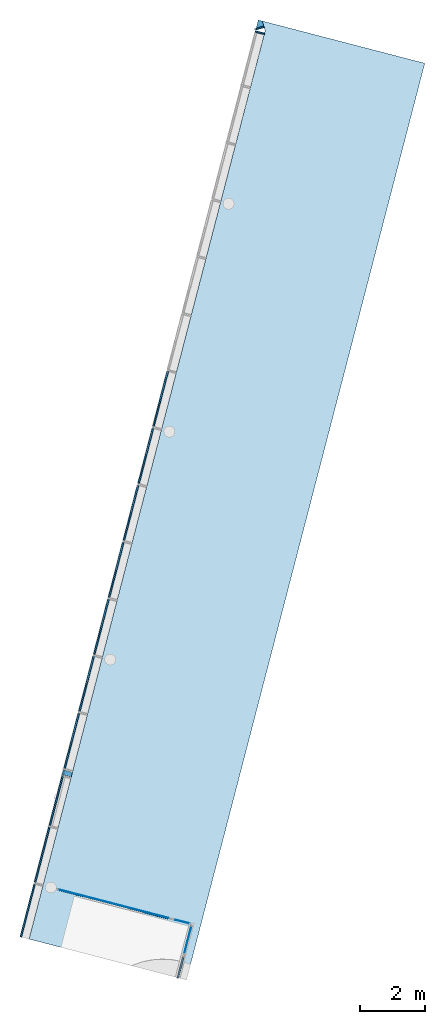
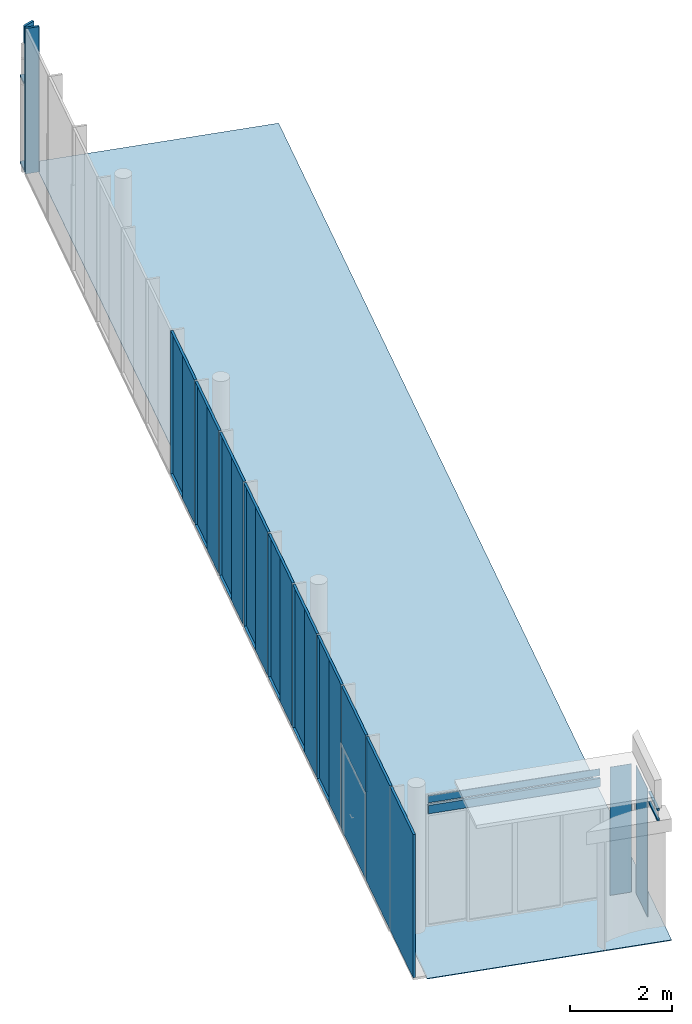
# One storey, part 5 of 9: 16 plates, 7 members, 1 slab, 12 elements without a shape of their own.
"""IFC2X3 building model written with IfcOpenShell, lengths in millimetres."""

from ifc_helpers import new_model, entity, si_unit, converted_unit, derived_unit, direction, frame, frame_2d, origin, origin_with_axes, place, context, subcontext, project, spatial, rectangle, extrude, faceted_brep, source, transform, mapped, material, layer, layer_set, type_object, element, aggregate, save


model = new_model("IFC2X3")

# Units and contexts
model_context = context("Model", 3, precision=0.01, world=origin(), true_north=direction((6.12323399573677e-17, 1.0)))
plan_context = context("Plan", 3, precision=1e-05, world=origin_with_axes())
body_context = subcontext(model_context, "Body", "Model", "MODEL_VIEW")
ifc_project = project(units=[converted_unit("PLANEANGLEUNIT", "DEGREE", entity("IfcPositiveLengthMeasure", 0.0174532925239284), si_unit("PLANEANGLEUNIT", "RADIAN"), dimensions=[0, 0, 0, 0, 0, 0, 0]), si_unit("AREAUNIT", "SQUARE_METRE"), si_unit("LENGTHUNIT", "METRE", prefix="MILLI"), si_unit("MASSUNIT", "GRAM", prefix="KILO"), si_unit("POWERUNIT", "WATT"), si_unit("PRESSUREUNIT", "PASCAL", prefix="KILO"), si_unit("FORCEUNIT", "NEWTON", prefix="KILO"), si_unit("ELECTRICVOLTAGEUNIT", "VOLT"), si_unit("ELECTRICCURRENTUNIT", "AMPERE"), si_unit("THERMODYNAMICTEMPERATUREUNIT", "DEGREE_CELSIUS"), si_unit("TIMEUNIT", "SECOND"), si_unit("VOLUMEUNIT", "CUBIC_METRE"), derived_unit("LINEARVELOCITYUNIT", [(si_unit("LENGTHUNIT", "METRE"), 1), (si_unit("TIMEUNIT", "SECOND"), -1)]), derived_unit("VOLUMETRICFLOWRATEUNIT", [(si_unit("VOLUMEUNIT", "CUBIC_METRE"), 1), (si_unit("TIMEUNIT", "SECOND"), -1)]), derived_unit("THERMALTRANSMITTANCEUNIT", [(si_unit("POWERUNIT", "WATT"), 1), (si_unit("THERMODYNAMICTEMPERATUREUNIT", "KELVIN"), -1), (si_unit("AREAUNIT", "SQUARE_METRE"), -1)]), derived_unit("SOUNDPRESSUREUNIT", [(si_unit("PRESSUREUNIT", "PASCAL"), 1)])], contexts=[model_context, plan_context])

# Site, building, storey
site_placement = place(None, frame((0.0, -2.21771188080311e-09, 0.0), z_axis=(0.0, 0.0, 1.0), x_axis=(0.266093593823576, -0.963947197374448, 0.0)))
site = spatial("IfcSite", under=ifc_project, at=site_placement, Name="ENZV", CompositionType="ELEMENT")
building_placement = place(site_placement, origin_with_axes())
building = spatial("IfcBuilding", under=site, at=building_placement, Name="ZV001", CompositionType="ELEMENT")
storey_placement = place(building_placement, frame((0.0, 0.0, 5100.0), z_axis=(0.0, 0.0, 1.0), x_axis=(1.0, 0.0, 0.0)))
storey = spatial("IfcBuildingStorey", under=building, at=storey_placement, Name="H01", CompositionType="ELEMENT", Elevation=5100.0)

# Curtain wall, members
curtain_wall_type_1 = type_object("IfcCurtainWallType", Name="Curtain Wall:Glassvegg 24 dB", PredefinedType="NOTDEFINED")
curtain_wall_1_placement = place(storey_placement, frame((0.0, 0.0, -5100.0), z_axis=(0.0, 0.0, 1.0), x_axis=(1.0, 0.0, 0.0)))
curtain_wall_1 = element("IfcCurtainWall", 1, at=curtain_wall_1_placement, inside=storey, type_object=curtain_wall_type_1, Name="Curtain Wall:Glassvegg 24 dB", ObjectType="Curtain Wall:Glassvegg 24 dB")
ifc_material_1 = material(Name="Aluminium")
member_type_1 = type_object("IfcMemberType", Name="Rectangular Mullion:ENZV_50x50mm uten offset", PredefinedType="MULLION", material=ifc_material_1)
member_1_placement = place(curtain_wall_1_placement, frame((-156025.991809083, 370557.432588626, 7998.0), z_axis=(-0.866025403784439, 0.5, 0.0), x_axis=(0.0, 0.0, -1.0)))
member_1 = element("IfcMember", 2, at=member_1_placement, type_object=member_type_1, Name="Rectangular Mullion:ENZV_50x50mm uten offset", ObjectType="Rectangular Mullion:ENZV_50x50mm uten offset", context=body_context, shape_type="Brep", body=[
    faceted_brep([(0.0, 25.0, -630.169636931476), (0.0, -25.0, -630.171965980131), (0.0, -25.0, 0.0), (0.0, 25.0, 0.0), (-50.0, 25.0, -630.169636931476), (-50.0, 25.0, 0.0), (-50.0, -25.0, -630.171965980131), (-50.0, -25.0, 0.0)], [[[0, 1, 2, 3]], [[4, 0, 3, 5]], [[6, 4, 5, 7]], [[1, 6, 7, 2]], [[3, 2, 7, 5]], [[4, 6, 1, 0]]], orient=[[False], [False], [False], [False], [False], [False]]),
])
member_type_2 = type_object("IfcMemberType", Name="Rectangular Mullion:ENZV_50x50mm uten offset", PredefinedType="MULLION", material=ifc_material_1)
member_2_placement = place(curtain_wall_1_placement, frame((-151635.404360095, 368022.525804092, 8290.0), z_axis=(0.866025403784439, -0.5, 0.0), x_axis=(0.0, 0.0, 1.0)))
member_2 = element("IfcMember", 3, at=member_2_placement, type_object=member_type_2, Name="Rectangular Mullion:ENZV_50x50mm uten offset", ObjectType="Rectangular Mullion:ENZV_50x50mm uten offset", context=body_context, shape_type="Brep", body=[
    faceted_brep([(0.0, -25.0, -4439.64169464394), (0.0, 25.0, -4439.64402369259), (0.0, 25.0, -5069.81366062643), (0.0, -25.0, -5069.81366062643), (-50.0, 25.0, -4439.64402369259), (-50.0, 25.0, -5069.81366062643), (-50.0, -25.0, -4439.64169464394), (-50.0, -25.0, -5069.81366062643)], [[[0, 1, 2, 3]], [[1, 4, 5, 2]], [[4, 6, 7, 5]], [[6, 0, 3, 7]], [[3, 2, 5, 7]], [[6, 4, 1, 0]]], orient=[[False], [False], [False], [False], [False], [False]]),
])
aggregate(curtain_wall_1, [member_1, member_2])

curtain_wall_type_2 = type_object("IfcCurtainWallType", Name="Curtain Wall:Curtain Wall glass 125mm ut", PredefinedType="NOTDEFINED")
curtain_wall_2_placement = place(storey_placement, frame((0.0, 0.0, -5100.0), z_axis=(0.0, 0.0, 1.0), x_axis=(1.0, 0.0, 0.0)))
curtain_wall_2 = element("IfcCurtainWall", 4, at=curtain_wall_2_placement, inside=storey, type_object=curtain_wall_type_2, Name="Curtain Wall:Curtain Wall glass 125mm ut", ObjectType="Curtain Wall:Curtain Wall glass 125mm ut")
member_type_3 = type_object("IfcMemberType", Name="Rectangular Mullion:ENZV_300x50mm_offset 70", PredefinedType="MULLION", material=ifc_material_1)
member_3_placement = place(curtain_wall_2_placement, frame((-182783.615731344, 380431.274492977, 8195.33333333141), z_axis=(0.0, 0.0, -1.0), x_axis=(1.0, 0.0, 0.0)))
member_3 = element("IfcMember", 5, at=member_3_placement, type_object=member_type_3, Name="Rectangular Mullion:ENZV_300x50mm_offset 70", ObjectType="Rectangular Mullion:ENZV_300x50mm_offset 70", context=body_context, shape_type="Brep", body=[
    faceted_brep([(0.0, 184.361136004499, 0.333333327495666), (1.70530256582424e-13, 184.361136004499, -404.666666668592), (0.0, -84.5, -404.666666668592), (0.0, -84.5, 0.333333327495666), (-50.0, -84.5, -404.666666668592), (-50.0000000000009, 155.490517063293, -404.666666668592), (-50.0, 155.490517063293, 0.333333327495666), (-50.0, -84.5, 0.333333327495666)], [[[0, 1, 2, 3]], [[4, 5, 6, 7]], [[2, 4, 7, 3]], [[6, 0, 3, 7]], [[1, 0, 6, 5]], [[5, 4, 2, 1]]], orient=[[False], [False], [False], [False], [False], [False]]),
])
member_type_4 = type_object("IfcMemberType", Name="Rectangular Mullion:ENZV_300x50mm_offset 70", PredefinedType="MULLION", material=ifc_material_1)
member_4_placement = place(curtain_wall_2_placement, frame((-183054.075216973, 380431.274492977, 5120.0), z_axis=(-1.0, 0.0, 0.0), x_axis=(0.0, 0.0, -1.0)))
member_4 = element("IfcMember", 6, at=member_4_placement, type_object=member_type_4, Name="Rectangular Mullion:ENZV_300x50mm_offset 70", ObjectType="Rectangular Mullion:ENZV_300x50mm_offset 70", context=body_context, shape_type="Brep", body=[
    faceted_brep([(0.0, -84.5, -63.0948397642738), (0.0, 24.7717130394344, 1.16529008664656e-11), (0.0, 28.1944810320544, 1.16529008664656e-11), (0.0, 155.490517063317, -220.459485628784), (0.0, -84.5, -220.459485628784), (-50.0, 155.490517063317, -220.459485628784), (-50.0, 28.1944810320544, 1.16529008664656e-11), (-50.0, 24.7717130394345, 1.16529008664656e-11), (-50.0, -84.5, -63.0948397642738), (-50.0, -84.5, -220.459485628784)], [[[0, 1, 2, 3, 4]], [[5, 6, 7, 8, 9]], [[8, 0, 4, 9]], [[3, 5, 9, 4]], [[1, 7, 6, 2]], [[8, 7, 1, 0]], [[6, 5, 3, 2]]], orient=[[False], [False], [False], [False], [False], [False], [False]]),
])
member_type_5 = type_object("IfcMemberType", Name="Rectangular Mullion:ENZV_300x50mm_offset 70", PredefinedType="MULLION", material=ifc_material_1)
member_5_placement = place(curtain_wall_2_placement, frame((-182833.615731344, 380431.274492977, 7215.0), z_axis=(1.0, 0.0, 0.0), x_axis=(0.0, 0.0, 1.0)))
member_5 = element("IfcMember", 7, at=member_5_placement, type_object=member_type_5, Name="Rectangular Mullion:ENZV_300x50mm_offset 70", ObjectType="Rectangular Mullion:ENZV_300x50mm_offset 70", context=body_context, shape_type="Brep", body=[
    faceted_brep([(25.0, 155.490517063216, -1.49952938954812e-10), (25.0000000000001, 27.3386509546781, -221.941667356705), (25.0, -84.5, -157.364645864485), (25.0, -84.5, -1.49952938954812e-10), (-25.0, -84.5, -157.364645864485), (-25.0000000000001, 27.3386509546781, -221.941667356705), (-25.0, 155.490517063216, -1.49952938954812e-10), (-25.0, -84.5, -1.49952938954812e-10)], [[[0, 1, 2, 3]], [[4, 5, 6, 7]], [[2, 4, 7, 3]], [[6, 0, 3, 7]], [[5, 4, 2, 1]], [[1, 0, 6, 5]]], orient=[[False], [False], [False], [False], [False], [False]]),
])
aggregate(curtain_wall_2, [member_3, member_5, member_4])

# Curtain wall, member
curtain_wall_3_placement = place(storey_placement, frame((0.0, 0.0, -5100.0), z_axis=(0.0, 0.0, 1.0), x_axis=(1.0, 0.0, 0.0)))
curtain_wall_3 = element("IfcCurtainWall", 8, at=curtain_wall_3_placement, inside=storey, type_object=curtain_wall_type_2, Name="Curtain Wall:Curtain Wall glass 125mm ut", ObjectType="Curtain Wall:Curtain Wall glass 125mm ut")
member_type_6 = type_object("IfcMemberType", Name="Rectangular Mullion:ENZV_304x50mm", PredefinedType="MULLION", material=ifc_material_1)
member_6_placement = place(curtain_wall_3_placement, frame((-182697.01617689, 380349.557848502, 5120.0), z_axis=(0.0, 0.0, -1.0), x_axis=(-0.866025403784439, 0.5, 0.0)))
member_6 = element("IfcMember", 9, at=member_6_placement, type_object=member_type_6, Name="Rectangular Mullion:ENZV_304x50mm", ObjectType="Rectangular Mullion:ENZV_304x50mm", context=body_context, shape_type="Brep", body=[
    faceted_brep([(0.0, 152.0, -3480.0), (-1.36424205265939e-12, -132.193617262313, -3480.0), (0.0, -132.193617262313, -1.81898940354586e-12), (0.0, 152.0, -1.81898940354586e-12), (-50.0, 152.0, -3480.0), (-50.0, 152.0, -1.81898940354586e-12), (-50.0, -132.195946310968, -1.81898940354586e-12), (-50.0000000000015, -132.195946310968, -3480.0)], [[[0, 1, 2, 3]], [[4, 0, 3, 5]], [[6, 7, 4, 5]], [[2, 6, 5, 3]], [[7, 6, 2, 1]], [[1, 0, 4, 7]]], orient=[[False], [False], [False], [False], [False], [False]]),
])
aggregate(curtain_wall_3, [member_6])

curtain_wall_4_placement = place(storey_placement, frame((0.0, 0.0, -5100.0), z_axis=(0.0, 0.0, 1.0), x_axis=(1.0, 0.0, 0.0)))
curtain_wall_4 = element("IfcCurtainWall", 10, at=curtain_wall_4_placement, inside=storey, type_object=curtain_wall_type_2, Name="Curtain Wall:Curtain Wall glass 125mm ut", ObjectType="Curtain Wall:Curtain Wall glass 125mm ut")
member_type_7 = type_object("IfcMemberType", Name="Rectangular Mullion:ENZV_304x50mm", PredefinedType="MULLION", material=ifc_material_1)
member_7_placement = place(curtain_wall_4_placement, frame((-182696.405194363, 380350.616118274, 5120.0), z_axis=(0.0, 0.0, -1.0), x_axis=(-0.866025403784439, 0.5, 0.0)))
member_7 = element("IfcMember", 11, at=member_7_placement, type_object=member_type_7, Name="Rectangular Mullion:ENZV_304x50mm", ObjectType="Rectangular Mullion:ENZV_304x50mm", context=body_context, shape_type="Brep", body=[
    faceted_brep([(0.0, 152.0, -3480.0), (1.19371179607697e-12, -133.415597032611, -3480.0), (0.0, -133.415597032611, -1.81898940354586e-12), (0.0, 152.0, -1.81898940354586e-12), (-50.0, 152.0, -3480.0), (-50.0, 152.0, -1.81898940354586e-12), (-50.0, -133.417926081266, -1.81898940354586e-12), (-49.9999999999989, -133.417926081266, -3480.0)], [[[0, 1, 2, 3]], [[4, 0, 3, 5]], [[6, 7, 4, 5]], [[2, 6, 5, 3]], [[7, 6, 2, 1]], [[1, 0, 4, 7]]], orient=[[False], [False], [False], [False], [False], [False]]),
])
aggregate(curtain_wall_4, [member_7])

# Curtain wall, plate
curtain_wall_5_placement = place(storey_placement, frame((0.0, 0.0, -5100.0), z_axis=(0.0, 0.0, 1.0), x_axis=(1.0, 0.0, 0.0)))
curtain_wall_5 = element("IfcCurtainWall", 12, at=curtain_wall_5_placement, inside=storey, type_object=curtain_wall_type_1, Name="Curtain Wall:Glassvegg 24 dB", ObjectType="Curtain Wall:Glassvegg 24 dB")
ifc_material_2 = material(Name="Glass")
plate_type_1 = type_object("IfcPlateType", Name="System Panel:Glassfelt 10mm", PredefinedType="CURTAIN_PANEL", material=ifc_material_2)
shared_shape_1 = source(origin(), body_context, "Body", "SweptSolid", [
    extrude(rectangle(XDim=10.0, YDim=839.99999999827, at=frame_2d((0.0, -3.72324393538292e-12), x_axis=(1.0, 0.0))), frame((0.0, 0.0, 0.0), z_axis=(0.0, 0.0, 1.0), x_axis=(0.0, 1.0, 0.0)), (0.0, 0.0, 1.0), 3070.0),
])
plate_1_placement = place(curtain_wall_5_placement, frame((-156519.626292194, 370842.432583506, 5170.0), z_axis=(0.0, 0.0, 1.0), x_axis=(0.866025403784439, -0.5, 0.0)))
plate_1 = element("IfcPlate", 13, at=plate_1_placement, type_object=plate_type_1, material=ifc_material_2, Name="System Panel:Glassfelt 10mm", ObjectType="System Panel:Glassfelt 10mm", context=body_context, shape_type="MappedRepresentation", body=[
    mapped(shared_shape_1, transform((0.0, 0.0, 0.0), scale=1.0)),
])
aggregate(curtain_wall_5, [plate_1])

# Curtain wall, plates
curtain_wall_6_placement = place(storey_placement, frame((0.0, 0.0, -5100.0), z_axis=(0.0, 0.0, 1.0), x_axis=(1.0, 0.0, 0.0)))
curtain_wall_6 = element("IfcCurtainWall", 14, at=curtain_wall_6_placement, inside=storey, type_object=curtain_wall_type_1, Name="Curtain Wall:Glassvegg 24 dB", ObjectType="Curtain Wall:Glassvegg 24 dB")
plate_type_2 = type_object("IfcPlateType", Name="System Panel:Glassfelt Alu 50mm Skytedør Inne", PredefinedType="CURTAIN_PANEL", material=ifc_material_1)
shared_shape_2 = source(origin(), body_context, "Body", "SweptSolid", [
    extrude(rectangle(XDim=50.0, YDim=3499.7893130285, at=frame_2d((0.0, 3.16049408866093e-11), x_axis=(1.0, 0.0))), frame((0.0, 0.0, 0.0), z_axis=(0.0, 0.0, 1.0), x_axis=(0.0, 1.0, 0.0)), (0.0, 0.0, 1.0), 200.0),
])
plate_2_placement = place(curtain_wall_6_placement, frame((-158182.338010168, 368952.531358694, 7824.0), z_axis=(0.0, 0.0, 1.0), x_axis=(0.5, 0.866025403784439, 0.0)))
plate_2 = element("IfcPlate", 15, at=plate_2_placement, type_object=plate_type_2, material=ifc_material_1, Name="System Panel:Glassfelt Alu 50mm Skytedør Inne", ObjectType="System Panel:Glassfelt Alu 50mm Skytedør Inne", context=body_context, shape_type="MappedRepresentation", body=[
    mapped(shared_shape_2, transform((0.0, 0.0, 0.0), scale=1.0)),
])
plate_type_3 = type_object("IfcPlateType", Name="System Panel:Glassfelt 10mm", PredefinedType="CURTAIN_PANEL", material=ifc_material_2)
shared_shape_3 = source(origin(), body_context, "Body", "SweptSolid", [
    extrude(rectangle(XDim=10.0, YDim=3499.7893130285, at=frame_2d((0.0, 3.16049408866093e-11), x_axis=(1.0, 0.0))), frame((0.0, 0.0, 0.0), z_axis=(0.0, 0.0, 1.0), x_axis=(0.0, 1.0, 0.0)), (0.0, 0.0, 1.0), 166.000000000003),
])
plate_3_placement = place(curtain_wall_6_placement, frame((-158182.338010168, 368952.531358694, 8074.0), z_axis=(0.0, 0.0, 1.0), x_axis=(0.5, 0.866025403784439, 0.0)))
plate_3 = element("IfcPlate", 16, at=plate_3_placement, type_object=plate_type_3, material=ifc_material_2, Name="System Panel:Glassfelt 10mm", ObjectType="System Panel:Glassfelt 10mm", context=body_context, shape_type="MappedRepresentation", body=[
    mapped(shared_shape_3, transform((0.0, 0.0, 0.0), scale=1.0)),
])
aggregate(curtain_wall_6, [plate_2, plate_3])

# Curtain wall, plate
curtain_wall_7_placement = place(storey_placement, frame((0.0, 0.0, -5100.0), z_axis=(0.0, 0.0, 1.0), x_axis=(1.0, 0.0, 0.0)))
curtain_wall_7 = element("IfcCurtainWall", 17, at=curtain_wall_7_placement, inside=storey, type_object=curtain_wall_type_1, Name="Curtain Wall:Glassvegg 24 dB", ObjectType="Curtain Wall:Glassvegg 24 dB")
plate_type_4 = type_object("IfcPlateType", Name="System Panel:Glassfelt 10mm", PredefinedType="CURTAIN_PANEL", material=ifc_material_2)
shared_shape_4 = source(origin(), body_context, "Body", "SweptSolid", [
    extrude(rectangle(XDim=10.0, YDim=443.1636686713, at=frame_2d((0.0, 2.73843170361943e-11), x_axis=(1.0, 0.0))), frame((0.0, 0.0, 0.0), z_axis=(0.0, 0.0, 1.0), x_axis=(0.0, 1.0, 0.0)), (0.0, 0.0, 1.0), 3070.0),
])
plate_4_placement = place(curtain_wall_7_placement, frame((-157096.599784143, 370833.085174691, 5170.0), z_axis=(0.0, 0.0, 1.0), x_axis=(0.5, 0.866025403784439, 0.0)))
plate_4 = element("IfcPlate", 18, at=plate_4_placement, type_object=plate_type_4, material=ifc_material_2, Name="System Panel:Glassfelt 10mm", ObjectType="System Panel:Glassfelt 10mm", context=body_context, shape_type="MappedRepresentation", body=[
    mapped(shared_shape_4, transform((0.0, 0.0, 0.0), scale=1.0)),
])
aggregate(curtain_wall_7, [plate_4])

curtain_wall_8_placement = place(storey_placement, frame((0.0, 0.0, -5100.0), z_axis=(0.0, 0.0, 1.0), x_axis=(1.0, 0.0, 0.0)))
curtain_wall_8 = element("IfcCurtainWall", 19, at=curtain_wall_8_placement, inside=storey, type_object=curtain_wall_type_2, Name="Curtain Wall:Curtain Wall glass 125mm ut", ObjectType="Curtain Wall:Curtain Wall glass 125mm ut")
ifc_material_3 = material(Name="Alusystem isolert infill")
plate_type_5 = type_object("IfcPlateType", Name="System Panel:ENZV_Alu innfill 285mm_offset -11", PredefinedType="CURTAIN_PANEL", material=ifc_material_3)
shared_shape_5 = source(origin(), body_context, "Body", "SweptSolid", [
    extrude(rectangle(XDim=284.0, YDim=150.000000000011, at=frame_2d((0.0, -3.04822833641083e-12), x_axis=(1.0, 0.0))), frame((0.0, -11.0, 0.0), z_axis=(0.0, 0.0, 1.0), x_axis=(0.0, 1.0, 0.0)), (0.0, 0.0, 1.0), 2070.0),
])
plate_5_placement = place(curtain_wall_8_placement, frame((-162406.886700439, 368635.303135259, 5120.0), z_axis=(0.0, 0.0, 1.0), x_axis=(-0.866025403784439, 0.5, 0.0)))
plate_5 = element("IfcPlate", 20, at=plate_5_placement, type_object=plate_type_5, material=ifc_material_3, Name="System Panel:ENZV_Alu innfill 285mm_offset -11", ObjectType="System Panel:ENZV_Alu innfill 285mm_offset -11", context=body_context, shape_type="MappedRepresentation", body=[
    mapped(shared_shape_5, transform((0.0, 0.0, 0.0), scale=1.0)),
])

# Curtain wall, plates
curtain_wall_9_placement = place(storey_placement, frame((0.0, 0.0, -5100.0), z_axis=(0.0, 0.0, 1.0), x_axis=(1.0, 0.0, 0.0)))
curtain_wall_9 = element("IfcCurtainWall", 21, at=curtain_wall_9_placement, inside=storey, type_object=curtain_wall_type_2, Name="Curtain Wall:Curtain Wall glass 125mm ut", ObjectType="Curtain Wall:Curtain Wall glass 125mm ut")
plate_type_6 = type_object("IfcPlateType", Name="System Panel:Glassfelt 52mm+103mm ut", PredefinedType="CURTAIN_PANEL", material=ifc_material_2)
plate_6_placement = place(curtain_wall_9_placement, frame((-172626.506635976, 374534.497402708, 5170.0), z_axis=(0.0, 0.0, 1.0), x_axis=(0.866025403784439, -0.5, 0.0)))
plate_6 = element("IfcPlate", 22, at=plate_6_placement, type_object=plate_type_6, Name="System Panel:Glassfelt 52mm+103mm ut", ObjectType="System Panel:Glassfelt 52mm+103mm ut", context=body_context, shape_type="Brep", body=[
    faceted_brep([(-0.00307491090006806, -132.0, 0.0), (-0.00307491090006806, -132.0, 3430.0), (874.979510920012, -132.0, 3430.0), (874.979510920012, -132.0, 0.0), (874.97951092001, -132.040757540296, 3430.0), (874.979510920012, -80.0, 3430.0), (874.979510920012, -80.0, 0.0), (-874.979510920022, -80.0, 3430.0), (-874.979510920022, -80.0, 0.0), (-874.979510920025, -131.959242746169, 3430.0), (-874.979510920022, -131.959242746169, -1.13686837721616e-13), (-874.979510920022, -132.0, 0.0), (-874.979510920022, -132.0, 3430.0)], [[[0, 1, 2, 3]], [[4, 5, 6, 3]], [[5, 7, 8, 6]], [[7, 9, 10, 8]], [[11, 0, 3, 6, 8, 10]], [[7, 5, 2, 12]]], orient=[[False], [False], [False], [False], [False], [False]]),
])
plate_7_placement = place(curtain_wall_9_placement, frame((-171067.702833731, 373634.424791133, 5170.0), z_axis=(0.0, 0.0, 1.0), x_axis=(0.866025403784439, -0.5, 0.0)))
plate_7 = element("IfcPlate", 23, at=plate_7_placement, type_object=plate_type_6, Name="System Panel:Glassfelt 52mm+103mm ut", ObjectType="System Panel:Glassfelt 52mm+103mm ut", context=body_context, shape_type="Brep", body=[
    faceted_brep([(-0.00307215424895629, -132.0, 0.0), (-0.00307215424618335, -132.0, 3430.0), (874.979510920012, -132.0, 3430.0), (874.979510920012, -132.0, 0.0), (874.979510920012, -132.040757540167, 3430.0), (874.979510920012, -80.0, 3430.0), (874.979510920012, -80.0, 0.0), (-874.979510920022, -80.0, 3430.0), (-874.979510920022, -80.0, 0.0), (-874.979510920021, -131.959242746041, 3430.0), (-874.979510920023, -131.959242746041, -1.13686837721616e-13), (-874.979510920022, -132.0, 0.0), (-874.979510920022, -132.0, 3430.0)], [[[0, 1, 2, 3]], [[4, 5, 6, 3]], [[5, 7, 8, 6]], [[7, 9, 10, 8]], [[11, 0, 3, 6, 8, 10]], [[7, 5, 2, 12]]], orient=[[False], [False], [False], [False], [False], [False]]),
])
plate_8_placement = place(curtain_wall_9_placement, frame((-169508.899031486, 372734.352179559, 5170.0), z_axis=(0.0, 0.0, 1.0), x_axis=(0.866025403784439, -0.5, 0.0)))
plate_8 = element("IfcPlate", 24, at=plate_8_placement, type_object=plate_type_6, Name="System Panel:Glassfelt 52mm+103mm ut", ObjectType="System Panel:Glassfelt 52mm+103mm ut", context=body_context, shape_type="Brep", body=[
    faceted_brep([(-0.00307377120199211, -132.0, 0.0), (-0.00307377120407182, -132.0, 3430.0), (874.979510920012, -132.0, 3430.0), (874.979510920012, -132.0, 0.0), (874.979510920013, -132.040757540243, 3430.0), (874.979510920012, -80.0, 3430.0), (874.979510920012, -80.0, 0.0), (-874.979510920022, -80.0, 3430.0), (-874.979510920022, -80.0, 0.0), (-874.979510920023, -131.959242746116, 3430.0), (-874.979510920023, -131.959242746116, -1.13686837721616e-13), (-874.979510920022, -132.0, 0.0), (-874.979510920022, -132.0, 3430.0)], [[[0, 1, 2, 3]], [[4, 5, 6, 3]], [[5, 7, 8, 6]], [[7, 9, 10, 8]], [[11, 0, 3, 6, 8, 10]], [[7, 5, 2, 12]]], orient=[[False], [False], [False], [False], [False], [False]]),
])
plate_9_placement = place(curtain_wall_9_placement, frame((-167950.095229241, 371834.279567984, 5170.0), z_axis=(0.0, 0.0, 1.0), x_axis=(0.866025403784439, -0.5, 0.0)))
plate_9 = element("IfcPlate", 25, at=plate_9_placement, type_object=plate_type_6, Name="System Panel:Glassfelt 52mm+103mm ut", ObjectType="System Panel:Glassfelt 52mm+103mm ut", context=body_context, shape_type="Brep", body=[
    faceted_brep([(-0.00307163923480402, -132.0, 0.0), (-0.00307163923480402, -132.0, 3430.0), (874.979510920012, -132.0, 3430.0), (874.979510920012, -132.0, 0.0), (874.97951092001, -132.040757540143, 3430.0), (874.979510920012, -80.0, 3430.0), (874.979510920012, -80.0, 0.0), (-874.979510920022, -80.0, 3430.0), (-874.979510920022, -80.0, 0.0), (-874.979510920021, -131.959242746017, 3430.0), (-874.979510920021, -131.959242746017, -1.13686837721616e-13), (-874.979510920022, -132.0, 0.0), (-874.979510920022, -132.0, 3430.0)], [[[0, 1, 2, 3]], [[4, 5, 6, 3]], [[5, 7, 8, 6]], [[7, 9, 10, 8]], [[11, 0, 3, 6, 8, 10]], [[7, 5, 2, 12]]], orient=[[False], [False], [False], [False], [False], [False]]),
])
plate_10_placement = place(curtain_wall_9_placement, frame((-166391.291426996, 370934.20695641, 5170.0), z_axis=(0.0, 0.0, 1.0), x_axis=(0.866025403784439, -0.5, 0.0)))
plate_10 = element("IfcPlate", 26, at=plate_10_placement, type_object=plate_type_6, Name="System Panel:Glassfelt 52mm+103mm ut", ObjectType="System Panel:Glassfelt 52mm+103mm ut", context=body_context, shape_type="Brep", body=[
    faceted_brep([(-0.00307575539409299, -132.0, 0.0), (-0.00307575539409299, -132.0, 3430.0), (874.979510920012, -132.0, 3430.0), (874.979510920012, -132.0, 0.0), (874.979510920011, -132.040757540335, 3430.0), (874.979510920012, -80.0, 3430.0), (874.979510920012, -80.0, 0.0), (-874.979510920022, -80.0, 3430.0), (-874.979510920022, -80.0, 0.0), (-874.97951092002, -131.959242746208, 3430.0), (-874.97951092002, -131.959242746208, -1.13686837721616e-13), (-874.979510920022, -132.0, 0.0), (-874.979510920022, -132.0, 3430.0)], [[[0, 1, 2, 3]], [[4, 5, 6, 3]], [[5, 7, 8, 6]], [[7, 9, 10, 8]], [[11, 0, 3, 6, 8, 10]], [[7, 5, 2, 12]]], orient=[[False], [False], [False], [False], [False], [False]]),
])
plate_11_placement = place(curtain_wall_9_placement, frame((-164832.487624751, 370034.134344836, 5170.0), z_axis=(0.0, 0.0, 1.0), x_axis=(0.866025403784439, -0.5, 0.0)))
plate_11 = element("IfcPlate", 27, at=plate_11_placement, type_object=plate_type_6, Name="System Panel:Glassfelt 52mm+103mm ut", ObjectType="System Panel:Glassfelt 52mm+103mm ut", context=body_context, shape_type="Brep", body=[
    faceted_brep([(-0.00307737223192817, -132.0, 0.0), (-0.00307737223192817, -132.0, 3430.0), (874.979510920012, -132.0, 3430.0), (874.979510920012, -132.0, 0.0), (874.979510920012, -132.04075754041, 3430.0), (874.979510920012, -80.0, 3430.0), (874.979510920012, -80.0, 0.0), (-874.979510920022, -80.0, 3430.0), (-874.979510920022, -80.0, 0.0), (-874.979510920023, -131.959242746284, 3430.0), (-874.979510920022, -131.959242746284, -1.13686837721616e-13), (-874.979510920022, -132.0, 0.0), (-874.979510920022, -132.0, 3430.0)], [[[0, 1, 2, 3]], [[4, 5, 6, 3]], [[5, 7, 8, 6]], [[7, 9, 10, 8]], [[11, 0, 3, 6, 8, 10]], [[7, 5, 2, 12]]], orient=[[False], [False], [False], [False], [False], [False]]),
])

# Curtain wall, plate
curtain_wall_10_placement = place(storey_placement, frame((0.0, 0.0, -5100.0), z_axis=(0.0, 0.0, 1.0), x_axis=(1.0, 0.0, 0.0)))
curtain_wall_10 = element("IfcCurtainWall", 28, at=curtain_wall_10_placement, inside=storey, type_object=curtain_wall_type_2, Name="Curtain Wall:Curtain Wall glass 125mm ut", ObjectType="Curtain Wall:Curtain Wall glass 125mm ut")
plate_type_7 = type_object("IfcPlateType", Name="System Panel:Glassfelt 52mm+103mm ut", PredefinedType="CURTAIN_PANEL", material=ifc_material_2)
plate_12_placement = place(curtain_wall_10_placement, frame((-158607.734369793, 366440.644545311, 5170.0), z_axis=(0.0, 0.0, 1.0), x_axis=(0.866025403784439, -0.5, 0.0)))
plate_12 = element("IfcPlate", 29, at=plate_12_placement, type_object=plate_type_7, Name="System Panel:Glassfelt 52mm+103mm ut", ObjectType="System Panel:Glassfelt 52mm+103mm ut", context=body_context, shape_type="Brep", body=[
    faceted_brep([(807.399072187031, -132.0, 9.09494701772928e-13), (807.401494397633, -80.0, 9.09494701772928e-13), (-887.539327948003, -80.0, 9.09494701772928e-13), (-887.539327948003, -132.0, 9.09494701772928e-13), (-887.539327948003, -80.0, 3430.0), (-887.539327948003, -132.0, 3430.0), (807.399072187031, -132.0, 3430.0), (807.401494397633, -80.0, 3430.0)], [[[0, 1, 2, 3]], [[4, 5, 3, 2]], [[5, 6, 0, 3]], [[1, 7, 4, 2]], [[7, 1, 0, 6]], [[6, 5, 4, 7]]], orient=[[False], [False], [False], [False], [False], [False]]),
])
aggregate(curtain_wall_10, [plate_12])

curtain_wall_11_placement = place(storey_placement, frame((0.0, 0.0, -5100.0), z_axis=(0.0, 0.0, 1.0), x_axis=(1.0, 0.0, 0.0)))
curtain_wall_11 = element("IfcCurtainWall", 30, at=curtain_wall_11_placement, inside=storey, type_object=curtain_wall_type_2, Name="Curtain Wall:Curtain Wall glass 125mm ut", ObjectType="Curtain Wall:Curtain Wall glass 125mm ut")
plate_type_8 = type_object("IfcPlateType", Name="System Panel:Glassfelt 52mm+103mm ut", PredefinedType="CURTAIN_PANEL", material=ifc_material_2)
plate_13_placement = place(curtain_wall_11_placement, frame((-160155.296620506, 367335.095475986, 5170.0), z_axis=(0.0, 0.0, 1.0), x_axis=(-0.866025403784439, 0.5, 0.0)))
plate_13 = element("IfcPlate", 31, at=plate_13_placement, type_object=plate_type_8, Name="System Panel:Glassfelt 52mm+103mm ut", ObjectType="System Panel:Glassfelt 52mm+103mm ut", context=body_context, shape_type="Brep", body=[
    faceted_brep([(-874.979510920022, 80.0, 3430.0), (874.979510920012, 80.0, 3430.0), (874.979510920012, 80.0, 0.0), (-874.979510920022, 80.0, 0.0), (874.979510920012, 132.0, 3430.0), (874.979510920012, 132.0, 0.0), (-874.979510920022, 132.0, 3430.0), (-874.979510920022, 132.0, 0.0)], [[[0, 1, 2, 3]], [[1, 4, 5, 2]], [[4, 6, 7, 5]], [[6, 0, 3, 7]], [[3, 2, 5, 7]], [[6, 4, 1, 0]]], orient=[[False], [False], [False], [False], [False], [False]]),
])
aggregate(curtain_wall_11, [plate_13])

curtain_wall_12_placement = place(storey_placement, frame((0.0, 0.0, -5100.0), z_axis=(0.0, 0.0, 1.0), x_axis=(1.0, 0.0, 0.0)))
curtain_wall_12 = element("IfcCurtainWall", 32, at=curtain_wall_12_placement, inside=storey, type_object=curtain_wall_type_2, Name="Curtain Wall:Curtain Wall glass 125mm ut", ObjectType="Curtain Wall:Curtain Wall glass 125mm ut")
plate_type_9 = type_object("IfcPlateType", Name="System Panel:Glassfelt 52mm+103mm ut", PredefinedType="CURTAIN_PANEL", material=ifc_material_2)
plate_14_placement = place(curtain_wall_12_placement, frame((-161714.091653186, 368235.163372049, 5170.0), z_axis=(0.0, 0.0, 1.0), x_axis=(-0.866025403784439, 0.5, 0.0)))
plate_14 = element("IfcPlate", 33, at=plate_14_placement, type_object=plate_type_9, Name="System Panel:Glassfelt 52mm+103mm ut", ObjectType="System Panel:Glassfelt 52mm+103mm ut", context=body_context, shape_type="Brep", body=[
    faceted_brep([(-874.979510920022, 80.0, 3430.0), (874.979510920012, 80.0, 3430.0), (874.979510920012, 80.0, 0.0), (-874.979510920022, 80.0, 0.0), (874.979510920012, 132.0, 3430.0), (874.979510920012, 132.0, 0.0), (-874.979510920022, 132.0, 3430.0), (-874.979510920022, 132.0, 0.0)], [[[0, 1, 2, 3]], [[1, 4, 5, 2]], [[4, 6, 7, 5]], [[6, 0, 3, 7]], [[3, 2, 5, 7]], [[6, 4, 1, 0]]], orient=[[False], [False], [False], [False], [False], [False]]),
])
aggregate(curtain_wall_12, [plate_14])

# Plate
plate_type_10 = type_object("IfcPlateType", Name="System Panel:Glassfelt 52mm+103mm ut", PredefinedType="CURTAIN_PANEL", material=ifc_material_2)
plate_15_placement = place(curtain_wall_8_placement, frame((-161714.085662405, 368235.269734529, 7240.0), z_axis=(0.0, 0.0, 1.0), x_axis=(-0.866025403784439, 0.5, 0.0)))
plate_15 = element("IfcPlate", 34, at=plate_15_placement, type_object=plate_type_10, Name="System Panel:Glassfelt 52mm+103mm ut", ObjectType="System Panel:Glassfelt 52mm+103mm ut", context=body_context, shape_type="Brep", body=[
    faceted_brep([(875.000000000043, 80.0, 1.59161572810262e-12), (875.000000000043, 132.0, 1.59161572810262e-12), (-875.000000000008, 132.0, 1.59161572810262e-12), (-875.000000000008, 80.0, 1.59161572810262e-12), (-875.000000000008, 132.0, 1360.0), (-875.000000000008, 80.0, 1360.0), (875.000000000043, 80.0, 1360.0), (875.000000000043, 132.0, 1360.0)], [[[0, 1, 2, 3]], [[4, 5, 3, 2]], [[6, 7, 1, 0]], [[5, 6, 0, 3]], [[7, 4, 2, 1]], [[7, 6, 5, 4]]], orient=[[False], [False], [False], [False], [False], [False]]),
])

aggregate(curtain_wall_8, [plate_5, plate_15])

plate_type_11 = type_object("IfcPlateType", Name="System Panel:Glassfelt 52mm+103mm ut", PredefinedType="CURTAIN_PANEL", material=ifc_material_2)
plate_16_placement = place(curtain_wall_9_placement, frame((-163273.666369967, 369134.051655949, 5170.0), z_axis=(0.0, 0.0, 1.0), x_axis=(0.866025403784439, -0.5, 0.0)))
plate_16 = element("IfcPlate", 35, at=plate_16_placement, type_object=plate_type_11, Name="System Panel:Glassfelt 52mm+103mm ut", ObjectType="System Panel:Glassfelt 52mm+103mm ut", context=body_context, shape_type="Brep", body=[
    faceted_brep([(-0.00307591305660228, -132.0, 0.0), (-0.00307591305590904, -132.0, 3430.0), (874.979510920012, -132.0, 3430.0), (874.979510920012, -132.0, 0.0), (874.979510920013, -132.040757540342, 3430.0), (874.979510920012, -80.0, 3430.0), (874.979510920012, -80.0, 0.0), (-874.979510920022, -80.0, 3430.0), (-874.979510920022, -80.0, 0.0), (-874.979510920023, -131.959242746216, 3430.0), (-874.979510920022, -131.959242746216, -1.13686837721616e-13), (-874.979510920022, -132.0, 0.0), (-874.979510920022, -132.0, 3430.0)], [[[0, 1, 2, 3]], [[4, 5, 6, 3]], [[5, 7, 8, 6]], [[7, 9, 10, 8]], [[11, 0, 3, 6, 8, 10]], [[7, 5, 2, 12]]], orient=[[False], [False], [False], [False], [False], [False]]),
])

aggregate(curtain_wall_9, [plate_6, plate_7, plate_8, plate_9, plate_10, plate_11, plate_16])

# Slab
ifc_material_4 = material(Name="Fliser 600x600mm mørk grå")
ifc_layer = layer(ifc_material_4, 15.0)
ifc_layer_set = layer_set([ifc_layer], Name="Floor:ENZV_G04_Flis mørk grå 15mm")
slab_type = type_object("IfcSlabType", Name="Floor:ENZV_G04_Flis mørk grå 15mm", PredefinedType="FLOOR", material=ifc_layer_set)
slab_placement = place(storey_placement, origin_with_axes())
element("IfcSlab", 36, at=slab_placement, inside=storey, type_object=slab_type, Name="Floor:ENZV_G04_Flis mørk grå 15mm", ObjectType="Floor:ENZV_G04_Flis mørk grå 15mm", PredefinedType="FLOOR", context=body_context, shape_type="Brep", body=[
    faceted_brep([(-157832.164112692, 366169.146971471, 0.0), (-157832.164112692, 366169.146971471, -14.9999999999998), (-182681.252494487, 380515.774492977, -14.9999999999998), (-182681.252494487, 380515.774492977, 0.0), (-182990.980377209, 380515.774492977, -14.9999999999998), (-182990.980377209, 380515.774492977, 0.0), (-180425.25415571, 384959.264649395, -1.13686837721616e-13), (-155344.550839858, 370477.356085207, -1.13686837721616e-13), (-155344.550839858, 370477.356085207, -14.9999999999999), (-180425.25415571, 384959.264649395, -14.9999999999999)], [[[0, 1, 2, 3]], [[4, 5, 3, 2]], [[5, 6, 7, 0, 3]], [[1, 8, 9, 4, 2]], [[8, 1, 0, 7]], [[7, 6, 9, 8]], [[6, 5, 4, 9]]], orient=[[False], [False], [False], [False], [False], [False], [False]]),
])

save(model, "model.ifc")
